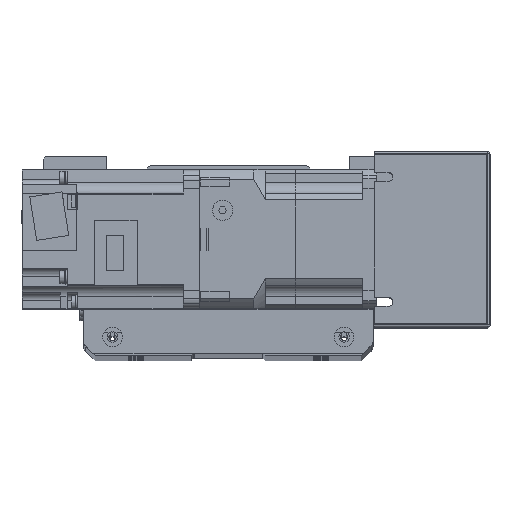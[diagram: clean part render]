
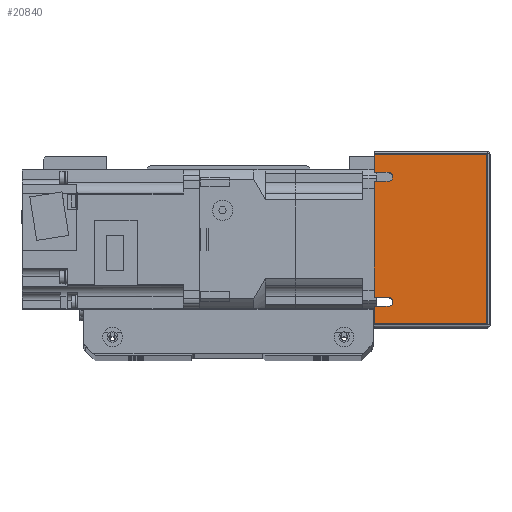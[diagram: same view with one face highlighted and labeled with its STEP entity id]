
A CAD part, top view. The second image highlights one B-rep face of the part: STEP entity #20840.
In plain terms, the highlighted planar face has unit normal (0, 0, 1) as drawn and (-1, 0, 0) by its records, which use the part's own axes.
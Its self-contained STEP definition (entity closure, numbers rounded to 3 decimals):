
#665=PLANE('',#23053);
#1995=LINE('',#34853,#3619);
#2002=LINE('',#34869,#3626);
#2011=LINE('',#34889,#3635);
#2019=LINE('',#34907,#3643);
#2034=LINE('',#34950,#3658);
#2036=LINE('',#34957,#3660);
#2039=LINE('',#34966,#3663);
#2044=LINE('',#34980,#3668);
#2045=LINE('',#34982,#3669);
#2046=LINE('',#34983,#3670);
#3619=VECTOR('',#28380,10.);
#3626=VECTOR('',#28391,10.);
#3635=VECTOR('',#28404,10.);
#3643=VECTOR('',#28416,10.);
#3658=VECTOR('',#28461,10.);
#3660=VECTOR('',#28469,10.);
#3663=VECTOR('',#28478,10.);
#3668=VECTOR('',#28491,10.);
#3669=VECTOR('',#28492,10.);
#3670=VECTOR('',#28493,10.);
#6022=FACE_OUTER_BOUND('',#7650,.T.);
#7650=EDGE_LOOP('',(#18086,#18087,#18088,#18089,#18090,#18091,#18092,#18093,
#18094,#18095,#18096,#18097));
#8800=CIRCLE('',#23032,2.);
#8805=CIRCLE('',#23040,2.);
#10497=VERTEX_POINT('',#34850);
#10498=VERTEX_POINT('',#34852);
#10504=VERTEX_POINT('',#34866);
#10505=VERTEX_POINT('',#34868);
#10513=VERTEX_POINT('',#34886);
#10514=VERTEX_POINT('',#34888);
#10521=VERTEX_POINT('',#34904);
#10522=VERTEX_POINT('',#34906);
#10535=VERTEX_POINT('',#34949);
#10540=VERTEX_POINT('',#34964);
#10545=VERTEX_POINT('',#34979);
#10546=VERTEX_POINT('',#34981);
#13057=EDGE_CURVE('',#10497,#10498,#1995,.T.);
#13064=EDGE_CURVE('',#10504,#10505,#2002,.T.);
#13073=EDGE_CURVE('',#10513,#10514,#2011,.T.);
#13081=EDGE_CURVE('',#10521,#10522,#2019,.T.);
#13088=EDGE_CURVE('',#10505,#10497,#8800,.T.);
#13099=EDGE_CURVE('',#10522,#10513,#8805,.T.);
#13105=EDGE_CURVE('',#10535,#10514,#2034,.T.);
#13109=EDGE_CURVE('',#10521,#10498,#2036,.T.);
#13114=EDGE_CURVE('',#10504,#10540,#2039,.T.);
#13121=EDGE_CURVE('',#10540,#10545,#2044,.T.);
#13122=EDGE_CURVE('',#10545,#10546,#2045,.T.);
#13123=EDGE_CURVE('',#10546,#10535,#2046,.T.);
#18086=ORIENTED_EDGE('',*,*,#13057,.F.);
#18087=ORIENTED_EDGE('',*,*,#13088,.F.);
#18088=ORIENTED_EDGE('',*,*,#13064,.F.);
#18089=ORIENTED_EDGE('',*,*,#13114,.T.);
#18090=ORIENTED_EDGE('',*,*,#13121,.T.);
#18091=ORIENTED_EDGE('',*,*,#13122,.T.);
#18092=ORIENTED_EDGE('',*,*,#13123,.T.);
#18093=ORIENTED_EDGE('',*,*,#13105,.T.);
#18094=ORIENTED_EDGE('',*,*,#13073,.F.);
#18095=ORIENTED_EDGE('',*,*,#13099,.F.);
#18096=ORIENTED_EDGE('',*,*,#13081,.F.);
#18097=ORIENTED_EDGE('',*,*,#13109,.T.);
#20840=ADVANCED_FACE('',(#6022),#665,.F.);
#23032=AXIS2_PLACEMENT_3D('',#34920,#28428,#28429);
#23040=AXIS2_PLACEMENT_3D('',#34938,#28450,#28451);
#23053=AXIS2_PLACEMENT_3D('',#34978,#28489,#28490);
#28380=DIRECTION('',(0.,0.,-1.));
#28391=DIRECTION('',(0.,0.,1.));
#28404=DIRECTION('',(0.,0.,-1.));
#28416=DIRECTION('',(0.,0.,1.));
#28428=DIRECTION('center_axis',(-1.,0.,0.));
#28429=DIRECTION('ref_axis',(0.,0.,-1.));
#28450=DIRECTION('center_axis',(-1.,0.,0.));
#28451=DIRECTION('ref_axis',(0.,0.,-1.));
#28461=DIRECTION('',(0.,-1.,0.));
#28469=DIRECTION('',(0.,-1.,0.));
#28478=DIRECTION('',(0.,-1.,0.));
#28489=DIRECTION('center_axis',(1.,0.,0.));
#28490=DIRECTION('ref_axis',(0.,-1.,0.));
#28491=DIRECTION('',(0.,0.,1.));
#28492=DIRECTION('',(0.,1.,0.));
#28493=DIRECTION('',(0.,0.,-1.));
#34850=CARTESIAN_POINT('',(-91.,-25.,-19.));
#34852=CARTESIAN_POINT('',(-91.,-25.,-25.));
#34853=CARTESIAN_POINT('',(-91.,-25.,-9.5));
#34866=CARTESIAN_POINT('',(-91.,-29.,-25.));
#34868=CARTESIAN_POINT('',(-91.,-29.,-19.));
#34869=CARTESIAN_POINT('',(-91.,-29.,-15.178));
#34886=CARTESIAN_POINT('',(-91.,29.,-19.));
#34888=CARTESIAN_POINT('',(-91.,29.,-25.));
#34889=CARTESIAN_POINT('',(-91.,29.,-9.5));
#34904=CARTESIAN_POINT('',(-91.,25.,-25.));
#34906=CARTESIAN_POINT('',(-91.,25.,-19.));
#34907=CARTESIAN_POINT('',(-91.,25.,-15.178));
#34920=CARTESIAN_POINT('Origin',(-91.,-27.,-19.));
#34938=CARTESIAN_POINT('Origin',(-91.,27.,-19.));
#34949=CARTESIAN_POINT('',(-91.,37.,-25.));
#34950=CARTESIAN_POINT('',(-91.,-38.,-25.));
#34957=CARTESIAN_POINT('',(-91.,-38.,-25.));
#34964=CARTESIAN_POINT('',(-91.,-37.,-25.));
#34966=CARTESIAN_POINT('',(-91.,-38.,-25.));
#34978=CARTESIAN_POINT('Origin',(-91.,38.,0.));
#34979=CARTESIAN_POINT('',(-91.,-37.,24.));
#34980=CARTESIAN_POINT('',(-91.,-37.,0.));
#34981=CARTESIAN_POINT('',(-91.,37.,24.));
#34982=CARTESIAN_POINT('',(-91.,19.,24.));
#34983=CARTESIAN_POINT('',(-91.,37.,0.));
